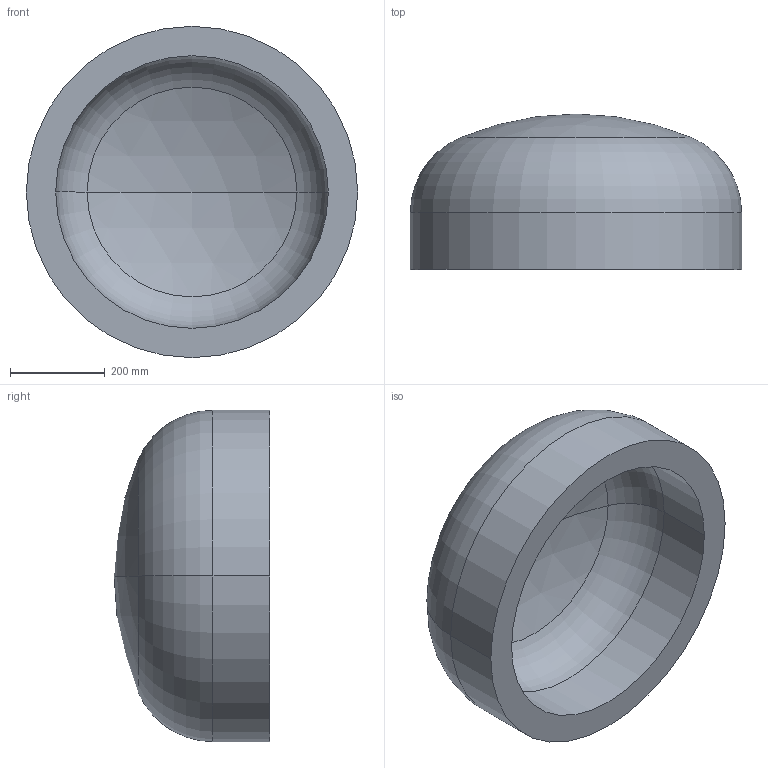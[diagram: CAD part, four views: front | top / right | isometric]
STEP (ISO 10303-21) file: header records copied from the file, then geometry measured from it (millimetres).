
FILE_DESCRIPTION (( 'STEP AP203' ), '1' );
FILE_NAME ('DIN 28013 Korbbogenform_-_Boden DIN 28013 - 700 x 120 - I - s=62.step', '2016-07-01T08:09:35', ( '' ), ( '' ), 'SwSTEP 2.0', 'SolidWorks 2013', '' );
FILE_SCHEMA (( 'CONFIG_CONTROL_DESIGN' ));
Length unit declared in the file: millimetre
Products named in the file (1): DIN 28013 Korbbogenform_-_Boden DIN 28013 - 700 x 120 - I - s=62
Bounding box: 700 x 328.7 x 700 mm (x, y, z)
Volume: 44629139.1 mm3; surface area: 1571969.1 mm2
Topology: 1 solids, 1 shells, 13 faces, 24 edges, 14 vertices
Faces by surface type: torus 4, cylinder 4, sphere 4, plane 1
Entity records: 407 total; most frequent: DIRECTION 72, CARTESIAN_POINT 52, ORIENTED_EDGE 48, AXIS2_PLACEMENT_3D 34, EDGE_CURVE 24, CIRCLE 20, EDGE_LOOP 14, VERTEX_POINT 14
